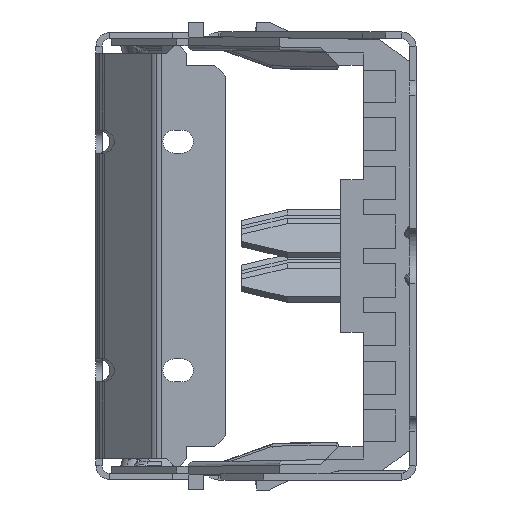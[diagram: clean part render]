
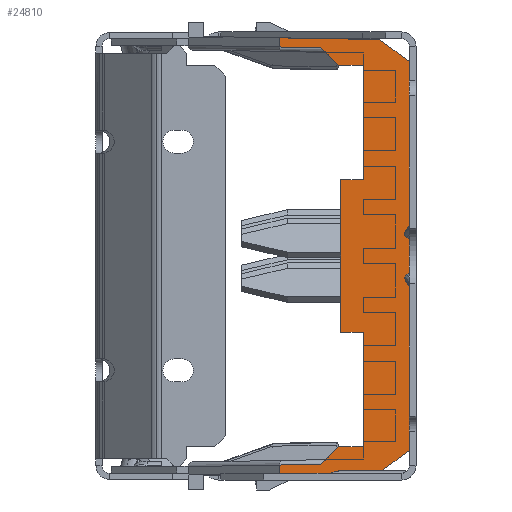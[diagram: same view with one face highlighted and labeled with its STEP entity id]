
A CAD part, left-side view. The second image highlights one B-rep face of the part: STEP entity #24810.
In plain terms, the highlighted planar face has unit normal (-1, 0, 0) as drawn and (0, 0, 1) by its records, which use the part's own axes.
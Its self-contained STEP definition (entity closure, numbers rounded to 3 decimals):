
#12722=DIRECTION('',(0.,1.,0.));
#12723=VECTOR('',#12722,1.5);
#12724=CARTESIAN_POINT('',(5.,3.,0.));
#12725=LINE('',#12724,#12723);
#12729=DIRECTION('',(-1.,0.,0.));
#12730=VECTOR('',#12729,7.5);
#12731=CARTESIAN_POINT('',(12.5,3.,0.));
#12732=LINE('',#12731,#12730);
#12736=DIRECTION('',(0.,-1.,0.));
#12737=VECTOR('',#12736,1.639);
#12738=CARTESIAN_POINT('',(12.5,4.639,0.));
#12739=LINE('',#12738,#12737);
#12743=DIRECTION('',(0.017,1.,0.));
#12744=VECTOR('',#12743,2.695);
#12745=CARTESIAN_POINT('',(13.666,5.805,0.));
#12746=LINE('',#12745,#12744);
#12750=DIRECTION('',(-1.,0.,0.));
#12751=VECTOR('',#12750,0.602);
#12752=CARTESIAN_POINT('',(14.313,8.5,0.));
#12753=LINE('',#12752,#12751);
#12757=DIRECTION('',(0.017,1.,0.));
#12758=VECTOR('',#12757,6.569);
#12759=CARTESIAN_POINT('',(14.199,1.932,0.));
#12760=LINE('',#12759,#12758);
#12764=DIRECTION('',(0.6,0.8,0.));
#12765=VECTOR('',#12764,2.415);
#12766=CARTESIAN_POINT('',(12.75,0.,0.));
#12767=LINE('',#12766,#12765);
#12771=DIRECTION('',(-0.6,0.8,0.));
#12772=VECTOR('',#12771,2.415);
#12773=CARTESIAN_POINT('',(-12.75,0.,0.));
#12774=LINE('',#12773,#12772);
#12778=DIRECTION('',(-0.017,1.,0.));
#12779=VECTOR('',#12778,6.569);
#12780=CARTESIAN_POINT('',(-14.199,1.932,0.));
#12781=LINE('',#12780,#12779);
#12785=DIRECTION('',(1.,0.,0.));
#12786=VECTOR('',#12785,0.602);
#12787=CARTESIAN_POINT('',(-14.313,8.5,0.));
#12788=LINE('',#12787,#12786);
#12792=DIRECTION('',(-0.017,1.,0.));
#12793=VECTOR('',#12792,2.695);
#12794=CARTESIAN_POINT('',(-13.666,5.805,0.));
#12795=LINE('',#12794,#12793);
#12799=DIRECTION('',(0.,-1.,0.));
#12800=VECTOR('',#12799,1.639);
#12801=CARTESIAN_POINT('',(-12.5,4.639,0.));
#12802=LINE('',#12801,#12800);
#12806=DIRECTION('',(1.,0.,0.));
#12807=VECTOR('',#12806,7.5);
#12808=CARTESIAN_POINT('',(-12.5,3.,0.));
#12809=LINE('',#12808,#12807);
#12813=DIRECTION('',(0.,1.,0.));
#12814=VECTOR('',#12813,1.5);
#12815=CARTESIAN_POINT('',(-5.,3.,0.));
#12816=LINE('',#12815,#12814);
#12834=DIRECTION('',(-1.,0.,0.));
#12835=VECTOR('',#12834,10.);
#12836=CARTESIAN_POINT('',(5.,4.5,0.));
#12837=LINE('',#12836,#12835);
#14068=DIRECTION('',(-0.707,0.707,0.));
#14069=VECTOR('',#14068,1.649);
#14070=CARTESIAN_POINT('',(-12.5,4.639,0.));
#14071=LINE('',#14070,#14069);
#14802=DIRECTION('',(1.,0.,0.));
#14803=VECTOR('',#14802,25.5);
#14804=CARTESIAN_POINT('',(-12.75,0.,0.));
#14805=LINE('',#14804,#14803);
#15217=DIRECTION('',(0.707,0.707,0.));
#15218=VECTOR('',#15217,1.649);
#15219=CARTESIAN_POINT('',(12.5,4.639,0.));
#15220=LINE('',#15219,#15218);
#22895=CARTESIAN_POINT('',(-12.5,3.,0.));
#22896=CARTESIAN_POINT('',(-5.,3.,0.));
#22897=VERTEX_POINT('',#22895);
#22898=VERTEX_POINT('',#22896);
#22899=CARTESIAN_POINT('',(-5.,4.5,0.));
#22900=VERTEX_POINT('',#22899);
#22902=CARTESIAN_POINT('',(-12.75,0.,0.));
#22904=VERTEX_POINT('',#22902);
#23069=CARTESIAN_POINT('',(12.5,3.,0.));
#23070=CARTESIAN_POINT('',(5.,3.,0.));
#23071=VERTEX_POINT('',#23069);
#23072=VERTEX_POINT('',#23070);
#23073=CARTESIAN_POINT('',(5.,4.5,0.));
#23074=VERTEX_POINT('',#23073);
#23076=CARTESIAN_POINT('',(12.75,0.,0.));
#23078=VERTEX_POINT('',#23076);
#23271=CARTESIAN_POINT('',(-12.5,4.639,0.));
#23272=VERTEX_POINT('',#23271);
#23277=CARTESIAN_POINT('',(12.5,4.639,0.));
#23278=VERTEX_POINT('',#23277);
#23285=CARTESIAN_POINT('',(-14.199,1.932,0.));
#23286=VERTEX_POINT('',#23285);
#23287=CARTESIAN_POINT('',(-14.313,8.5,0.));
#23288=VERTEX_POINT('',#23287);
#23306=CARTESIAN_POINT('',(-13.666,5.805,0.));
#23307=CARTESIAN_POINT('',(-13.712,8.5,0.));
#23308=VERTEX_POINT('',#23306);
#23309=VERTEX_POINT('',#23307);
#23355=CARTESIAN_POINT('',(14.199,1.932,0.));
#23356=VERTEX_POINT('',#23355);
#23357=CARTESIAN_POINT('',(14.313,8.5,0.));
#23358=VERTEX_POINT('',#23357);
#23376=CARTESIAN_POINT('',(13.666,5.805,0.));
#23377=CARTESIAN_POINT('',(13.712,8.5,0.));
#23378=VERTEX_POINT('',#23376);
#23379=VERTEX_POINT('',#23377);
#24767=CARTESIAN_POINT('',(0.,0.,0.));
#24768=DIRECTION('',(0.,0.,1.));
#24769=DIRECTION('',(1.,0.,0.));
#24770=AXIS2_PLACEMENT_3D('',#24767,#24768,#24769);
#24771=PLANE('',#24770);
#24773=ORIENTED_EDGE('',*,*,#24772,.F.);
#24775=ORIENTED_EDGE('',*,*,#24774,.F.);
#24777=ORIENTED_EDGE('',*,*,#24776,.F.);
#24779=ORIENTED_EDGE('',*,*,#24778,.F.);
#24781=ORIENTED_EDGE('',*,*,#24780,.T.);
#24783=ORIENTED_EDGE('',*,*,#24782,.T.);
#24785=ORIENTED_EDGE('',*,*,#24784,.F.);
#24787=ORIENTED_EDGE('',*,*,#24786,.F.);
#24789=ORIENTED_EDGE('',*,*,#24788,.F.);
#24791=ORIENTED_EDGE('',*,*,#24790,.F.);
#24793=ORIENTED_EDGE('',*,*,#24792,.T.);
#24795=ORIENTED_EDGE('',*,*,#24794,.T.);
#24797=ORIENTED_EDGE('',*,*,#24796,.T.);
#24799=ORIENTED_EDGE('',*,*,#24798,.F.);
#24801=ORIENTED_EDGE('',*,*,#24800,.F.);
#24803=ORIENTED_EDGE('',*,*,#24802,.T.);
#24805=ORIENTED_EDGE('',*,*,#24804,.T.);
#24807=ORIENTED_EDGE('',*,*,#24806,.T.);
#24808=EDGE_LOOP('',(#24773,#24775,#24777,#24779,#24781,#24783,#24785,#24787,
#24789,#24791,#24793,#24795,#24797,#24799,#24801,#24803,#24805,#24807));
#24809=FACE_OUTER_BOUND('',#24808,.F.);
#24772=EDGE_CURVE('',#23074,#22900,#12837,.T.);
#24774=EDGE_CURVE('',#23072,#23074,#12725,.T.);
#24776=EDGE_CURVE('',#23071,#23072,#12732,.T.);
#24778=EDGE_CURVE('',#23278,#23071,#12739,.T.);
#24780=EDGE_CURVE('',#23278,#23378,#15220,.T.);
#24782=EDGE_CURVE('',#23378,#23379,#12746,.T.);
#24784=EDGE_CURVE('',#23358,#23379,#12753,.T.);
#24786=EDGE_CURVE('',#23356,#23358,#12760,.T.);
#24788=EDGE_CURVE('',#23078,#23356,#12767,.T.);
#24790=EDGE_CURVE('',#22904,#23078,#14805,.T.);
#24792=EDGE_CURVE('',#22904,#23286,#12774,.T.);
#24794=EDGE_CURVE('',#23286,#23288,#12781,.T.);
#24796=EDGE_CURVE('',#23288,#23309,#12788,.T.);
#24798=EDGE_CURVE('',#23308,#23309,#12795,.T.);
#24800=EDGE_CURVE('',#23272,#23308,#14071,.T.);
#24802=EDGE_CURVE('',#23272,#22897,#12802,.T.);
#24804=EDGE_CURVE('',#22897,#22898,#12809,.T.);
#24806=EDGE_CURVE('',#22898,#22900,#12816,.T.);
#24810=ADVANCED_FACE('',(#24809),#24771,.T.);
